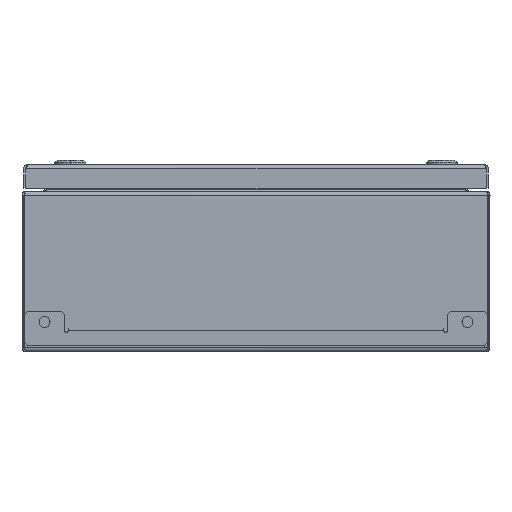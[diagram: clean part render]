
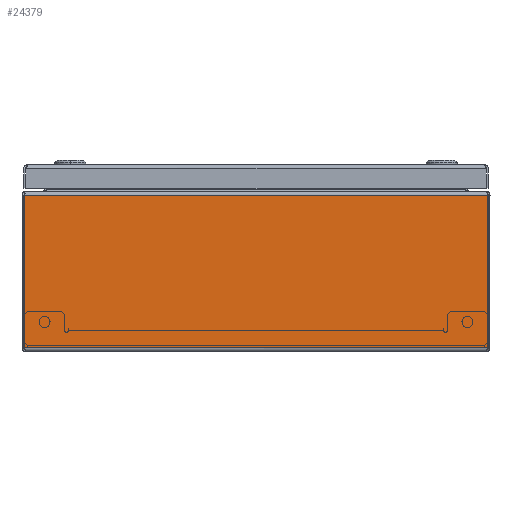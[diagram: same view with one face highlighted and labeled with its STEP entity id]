
A CAD part, left-side view. The second image highlights one B-rep face of the part: STEP entity #24379.
In plain terms, the highlighted planar face has unit normal (-1, 0, 0).
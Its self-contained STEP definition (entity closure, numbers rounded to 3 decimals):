
#41 = ORIENTED_EDGE ( 'NONE', *, *, #9595, .F. ) ;
#3442 = ORIENTED_EDGE ( 'NONE', *, *, #91963, .T. ) ;
#4524 = VECTOR ( 'NONE', #51875, 1000. ) ;
#9595 = EDGE_CURVE ( 'NONE', #33937, #19039, #58929, .T. ) ;
#14465 = CARTESIAN_POINT ( 'NONE',  ( -200., -148.6, 100.3 ) ) ;
#14736 = DIRECTION ( 'NONE',  ( 1., 0., 0. ) ) ;
#18979 = CARTESIAN_POINT ( 'NONE',  ( -200., -148.6, 100.3 ) ) ;
#19039 = VERTEX_POINT ( 'NONE', #52289 ) ;
#19185 = CARTESIAN_POINT ( 'NONE',  ( -200., -148.6, 2.7 ) ) ;
#19662 = VERTEX_POINT ( 'NONE', #43398 ) ;
#24379 = ADVANCED_FACE ( 'NONE', ( #40629 ), #47201, .F. ) ;
#27006 = LINE ( 'NONE', #70758, #66170 ) ;
#31098 = DIRECTION ( 'NONE',  ( 0., 1., 0. ) ) ;
#33937 = VERTEX_POINT ( 'NONE', #19185 ) ;
#35447 = DIRECTION ( 'NONE',  ( 0., 0., -1. ) ) ;
#40541 = VERTEX_POINT ( 'NONE', #14465 ) ;
#40629 = FACE_OUTER_BOUND ( 'NONE', #87626, .T. ) ;
#43398 = CARTESIAN_POINT ( 'NONE',  ( -200., 148.6, 100.3 ) ) ;
#45066 = EDGE_CURVE ( 'NONE', #40541, #19662, #68730, .T. ) ;
#47201 = PLANE ( 'NONE',  #88261 ) ;
#51875 = DIRECTION ( 'NONE',  ( 0., 1., 0. ) ) ;
#52289 = CARTESIAN_POINT ( 'NONE',  ( -200., 148.6, 2.7 ) ) ;
#53334 = LINE ( 'NONE', #18979, #72530 ) ;
#56500 = ORIENTED_EDGE ( 'NONE', *, *, #88627, .F. ) ;
#58929 = LINE ( 'NONE', #87631, #4524 ) ;
#66170 = VECTOR ( 'NONE', #35447, 1000. ) ;
#66829 = CARTESIAN_POINT ( 'NONE',  ( -200., -2150., 100.3 ) ) ;
#68730 = LINE ( 'NONE', #66829, #80532 ) ;
#70758 = CARTESIAN_POINT ( 'NONE',  ( -200., 148.6, 100.3 ) ) ;
#71707 = DIRECTION ( 'NONE',  ( 0., 0., -1. ) ) ;
#72158 = CARTESIAN_POINT ( 'NONE',  ( -200., -2150., 100.3 ) ) ;
#72530 = VECTOR ( 'NONE', #89100, 1000. ) ;
#78329 = ORIENTED_EDGE ( 'NONE', *, *, #45066, .T. ) ;
#80532 = VECTOR ( 'NONE', #31098, 1000. ) ;
#87626 = EDGE_LOOP ( 'NONE', ( #56500, #78329, #3442, #41 ) ) ;
#87631 = CARTESIAN_POINT ( 'NONE',  ( -200., -2150., 2.7 ) ) ;
#88261 = AXIS2_PLACEMENT_3D ( 'NONE', #72158, #14736, #71707 ) ;
#88627 = EDGE_CURVE ( 'NONE', #40541, #33937, #53334, .T. ) ;
#89100 = DIRECTION ( 'NONE',  ( 0., 0., -1. ) ) ;
#91963 = EDGE_CURVE ( 'NONE', #19662, #19039, #27006, .T. ) ;
